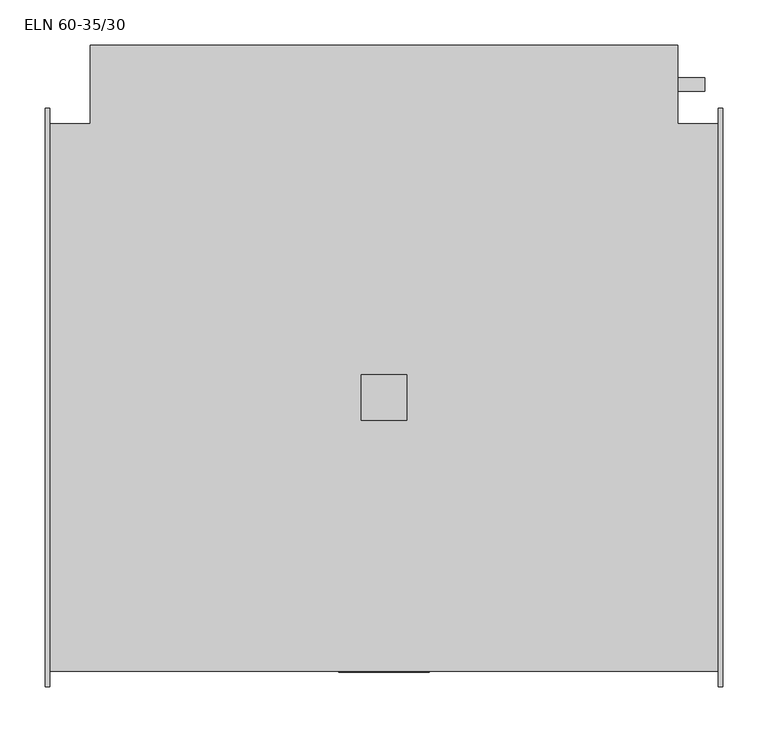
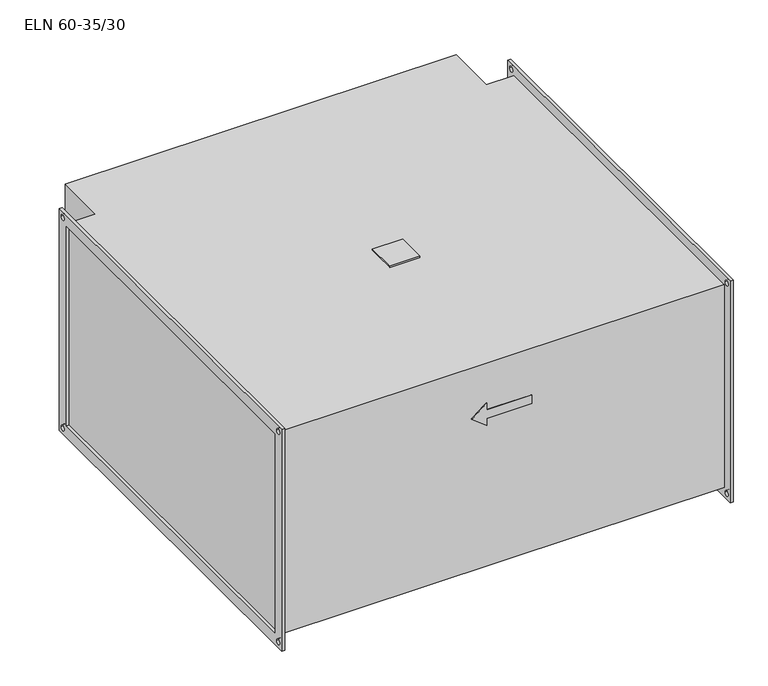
"""IFC4 building model written with IfcOpenShell, lengths in millimetres: proxy geometry, KORF_Нагреватель_Электрический_ELN : ELN 60-35/30."""

from ifc_helpers import new_model, si_unit, point, frame, frame_2d, origin, place, context, project, spatial, polyline, circle_curve, trimmed, segment, composite_curve, outline, extrude, source, transform, mapped, element, save


def eln_60_35_30_b6c51ae0(model_context):
    return source(origin(), model_context, "Body", "SweptSolid", [
        extrude(outline(polyline([(350.0, -25.0), (350.0, 25.0), (400.0, 25.0), (400.0, -25.0), (350.0, -25.0)])), frame((0.0, 0.0, 178.0), z_axis=(0.0, 0.0, 1.0), x_axis=(1.0, 0.0, 0.0)), (0.0, 0.0, 1.0), 2.0),
        extrude(outline(composite_curve([segment(trimmed(circle_curve(frame_2d((346.5, -89.0)), 7.5), [point((339.0, -89.0))], [point((354.0, -89.0))], False, "CARTESIAN"), True, "CONTINUOUS"), segment(trimmed(circle_curve(frame_2d((346.5, -89.0)), 7.5), [point((354.0, -89.0))], [point((339.0, -89.0))], False, "CARTESIAN"), True, "CONTINUOUS")], self_intersect=False)), frame((700.0, 0.0, 0.0), z_axis=(1.0, 0.0, 0.0), x_axis=(0.0, 1.0, 0.0)), (0.0, 0.0, 1.0), 30.0),
        extrude(outline(composite_curve([segment(trimmed(circle_curve(frame_2d((346.5, -69.0)), 7.5), [point((339.0, -69.0))], [point((354.0, -69.0))], False, "CARTESIAN"), True, "CONTINUOUS"), segment(trimmed(circle_curve(frame_2d((346.5, -69.0)), 7.5), [point((354.0, -69.0))], [point((339.0, -69.0))], False, "CARTESIAN"), True, "CONTINUOUS")], self_intersect=False)), frame((700.0, 0.0, 0.0), z_axis=(1.0, 0.0, 0.0), x_axis=(0.0, 1.0, 0.0)), (0.0, 0.0, 1.0), 30.0),
        extrude(outline(composite_curve([segment(trimmed(circle_curve(frame_2d((346.5, -109.0)), 7.5), [point((339.0, -109.0))], [point((354.0, -109.0))], False, "CARTESIAN"), True, "CONTINUOUS"), segment(trimmed(circle_curve(frame_2d((346.5, -109.0)), 7.5), [point((354.0, -109.0))], [point((339.0, -109.0))], False, "CARTESIAN"), True, "CONTINUOUS")], self_intersect=False)), frame((700.0, 0.0, 0.0), z_axis=(1.0, 0.0, 0.0), x_axis=(0.0, 1.0, 0.0)), (0.0, 0.0, 1.0), 30.0),
        extrude(outline(polyline([(109.0, 350.0), (89.0, 325.0), (69.0, 350.0), (81.5, 350.0), (81.5, 425.0), (96.5, 425.0), (96.5, 350.0), (109.0, 350.0)])), frame((0.0, -304.0, 0.0), z_axis=(0.0, 1.0, 0.0), x_axis=(0.0, 0.0, 1.0)), (0.0, 0.0, 1.0), 1.0),
        extrude(outline(polyline([(745.0, 303.0), (745.0, -303.0), (5.0, -303.0), (5.0, 303.0), (50.0, 303.0), (50.0, 390.0), (700.0, 390.0), (700.0, 303.0), (745.0, 303.0)])), frame((0.0, 0.0, -178.0), z_axis=(0.0, 0.0, 1.0), x_axis=(1.0, 0.0, 0.0)), (0.0, 0.0, 1.0), 356.0),
        extrude(outline(polyline([(-320.0, 195.0), (320.0, 195.0), (320.0, -195.0), (-320.0, -195.0), (-320.0, 195.0)]), holes=[polyline([(-300.0, 175.0), (-300.0, -175.0), (300.0, -175.0), (300.0, 175.0), (-300.0, 175.0)]), composite_curve([segment(trimmed(circle_curve(frame_2d((310.0, 185.0)), 4.5), [point((305.5, 185.0))], [point((314.5, 185.0))], True, "CARTESIAN"), True, "CONTINUOUS"), segment(trimmed(circle_curve(frame_2d((310.0, 185.0)), 4.5), [point((314.5, 185.0))], [point((305.5, 185.0))], True, "CARTESIAN"), True, "CONTINUOUS")], self_intersect=False), composite_curve([segment(trimmed(circle_curve(frame_2d((-310.0, 185.0)), 4.5), [point((-314.5, 185.0))], [point((-305.5, 185.0))], True, "CARTESIAN"), True, "CONTINUOUS"), segment(trimmed(circle_curve(frame_2d((-310.0, 185.0)), 4.5), [point((-305.5, 185.0))], [point((-314.5, 185.0))], True, "CARTESIAN"), True, "CONTINUOUS")], self_intersect=False), composite_curve([segment(trimmed(circle_curve(frame_2d((-310.0, -185.0)), 4.5), [point((-314.5, -185.0))], [point((-305.5, -185.0))], True, "CARTESIAN"), True, "CONTINUOUS"), segment(trimmed(circle_curve(frame_2d((-310.0, -185.0)), 4.5), [point((-305.5, -185.0))], [point((-314.5, -185.0))], True, "CARTESIAN"), True, "CONTINUOUS")], self_intersect=False), composite_curve([segment(trimmed(circle_curve(frame_2d((310.0, -185.0)), 4.5), [point((305.5, -185.0))], [point((314.5, -185.0))], True, "CARTESIAN"), True, "CONTINUOUS"), segment(trimmed(circle_curve(frame_2d((310.0, -185.0)), 4.5), [point((314.5, -185.0))], [point((305.5, -185.0))], True, "CARTESIAN"), True, "CONTINUOUS")], self_intersect=False)]), frame((745.0, 0.0, 0.0), z_axis=(1.0, 0.0, 0.0), x_axis=(0.0, 1.0, 0.0)), (0.0, 0.0, 1.0), 5.0),
        extrude(outline(polyline([(-320.0, 195.0), (320.0, 195.0), (320.0, -195.0), (-320.0, -195.0), (-320.0, 195.0)]), holes=[polyline([(-300.0, 175.0), (-300.0, -175.0), (300.0, -175.0), (300.0, 175.0), (-300.0, 175.0)]), composite_curve([segment(trimmed(circle_curve(frame_2d((310.0, 185.0)), 4.5), [point((305.5, 185.0))], [point((314.5, 185.0))], True, "CARTESIAN"), True, "CONTINUOUS"), segment(trimmed(circle_curve(frame_2d((310.0, 185.0)), 4.5), [point((314.5, 185.0))], [point((305.5, 185.0))], True, "CARTESIAN"), True, "CONTINUOUS")], self_intersect=False), composite_curve([segment(trimmed(circle_curve(frame_2d((-310.0, 185.0)), 4.5), [point((-314.5, 185.0))], [point((-305.5, 185.0))], True, "CARTESIAN"), True, "CONTINUOUS"), segment(trimmed(circle_curve(frame_2d((-310.0, 185.0)), 4.5), [point((-305.5, 185.0))], [point((-314.5, 185.0))], True, "CARTESIAN"), True, "CONTINUOUS")], self_intersect=False), composite_curve([segment(trimmed(circle_curve(frame_2d((-310.0, -185.0)), 4.5), [point((-314.5, -185.0))], [point((-305.5, -185.0))], True, "CARTESIAN"), True, "CONTINUOUS"), segment(trimmed(circle_curve(frame_2d((-310.0, -185.0)), 4.5), [point((-305.5, -185.0))], [point((-314.5, -185.0))], True, "CARTESIAN"), True, "CONTINUOUS")], self_intersect=False), composite_curve([segment(trimmed(circle_curve(frame_2d((310.0, -185.0)), 4.5), [point((305.5, -185.0))], [point((314.5, -185.0))], True, "CARTESIAN"), True, "CONTINUOUS"), segment(trimmed(circle_curve(frame_2d((310.0, -185.0)), 4.5), [point((314.5, -185.0))], [point((305.5, -185.0))], True, "CARTESIAN"), True, "CONTINUOUS")], self_intersect=False)]), frame((0.0, 0.0, 0.0), z_axis=(1.0, 0.0, 0.0), x_axis=(0.0, 1.0, 0.0)), (0.0, 0.0, 1.0), 5.0),
    ])


if __name__ == "__main__":
    model = new_model("IFC4")
    model_context = context("Model", 3, world=origin())
    ifc_project = project(units=[si_unit("LENGTHUNIT", "METRE", prefix="MILLI")], contexts=[model_context])
    site = spatial("IfcSite", under=ifc_project)
    building = spatial("IfcBuilding", under=site)
    placement = place(None, origin())
    eln_60_35_30_shape = eln_60_35_30_b6c51ae0(model_context)
    element("IfcBuildingElementProxy", 1, Name="KORF_Нагреватель_Электрический_ELN : ELN 60-35/30", ObjectType="KORF_Нагреватель_Электрический_ELN : ELN 60-35/30", at=placement, inside=building, context=model_context, shape_type="MappedRepresentation", body=[
        mapped(eln_60_35_30_shape, transform((0.0, 0.0, 0.0), x_axis=(1.0, 0.0, 0.0), y_axis=(0.0, 1.0, 0.0), z_axis=(0.0, 0.0, 1.0))),
    ])
    save(model, "model.ifc")
